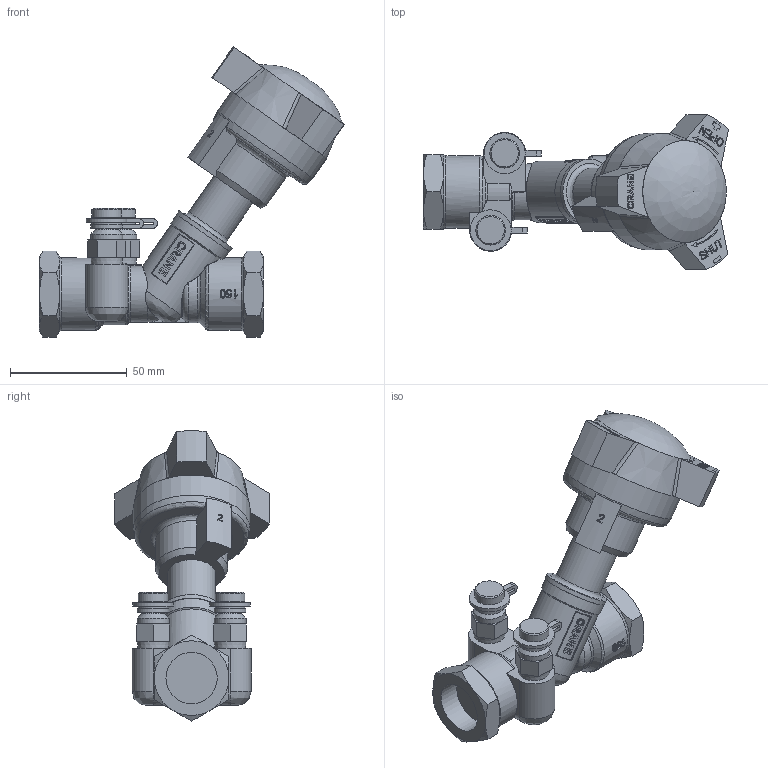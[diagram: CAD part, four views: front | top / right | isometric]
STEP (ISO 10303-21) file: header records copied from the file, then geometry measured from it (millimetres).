
FILE_DESCRIPTION((''),'2;1');
FILE_NAME('P:\Fastrack\53972_CRANE 3D\Workspace\CRANE\D931_3-4in\D931_3-4in.stp','2011-03-04T14:19:40',('btaylor'),(''),'Autodesk Inventor 2008','Autodesk Inventor 2008','');
FILE_SCHEMA(('AUTOMOTIVE_DESIGN { 1 0 10303 214 1 1 1 1 }'));
Length unit declared in the file: millimetre
Products named in the file (1): D931_3-4in
Bounding box: 130.74 x 66.44 x 124.49 mm (x, y, z)
Volume: 180789.6 mm3; surface area: 32313.5 mm2
Topology: 1 solids, 1 shells, 831 faces, 2205 edges, 1438 vertices
Faces by surface type: bspline 362, plane 343, cylinder 77, cone 40, torus 7, sphere 2
Full cylindrical faces by diameter (mm): 7.4 x2, 11 x2, 12.7 x2, 13.7 x2, 20.3 x1, 24 x1, 27.5 x1, 28 x1, 31 x2, 50 x1
Entity records: 79429 total; most frequent: CARTESIAN_POINT 60834, ORIENTED_EDGE 4294, DIRECTION 2492, EDGE_CURVE 2147, VERTEX_POINT 1414, VECTOR 1002, LINE 1002, EDGE_LOOP 929
